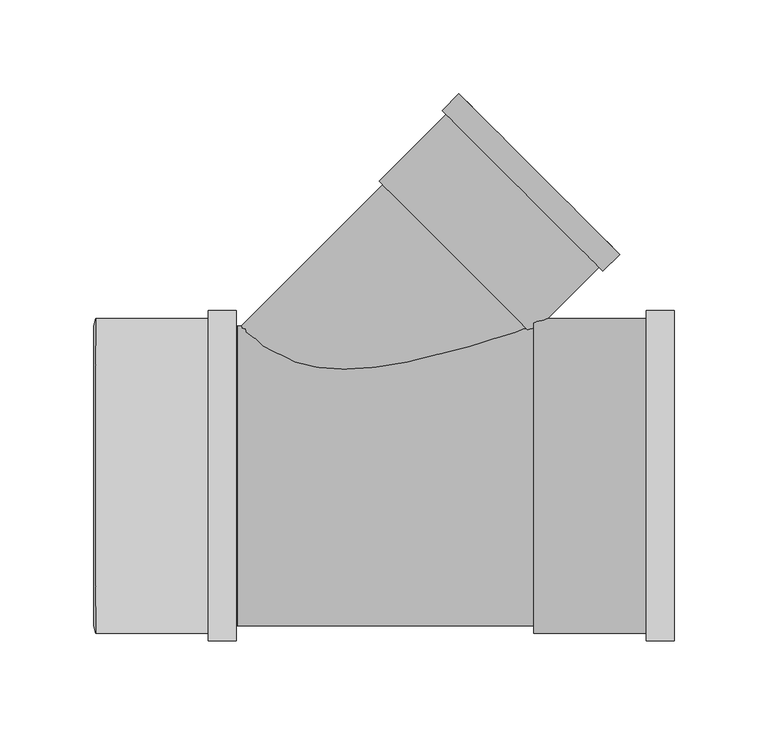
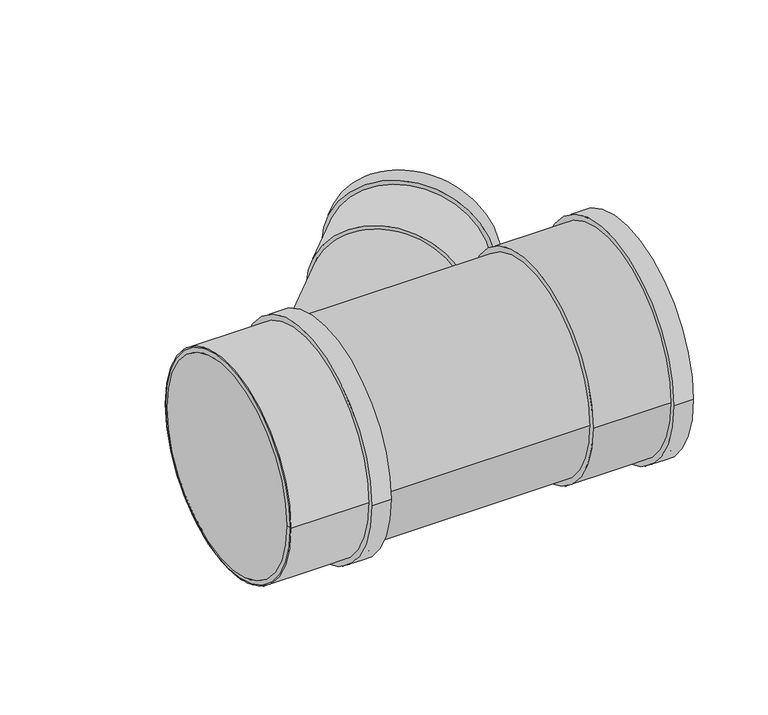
"""IFC4 building model written with IfcOpenShell, lengths in millimetres: pipe fitting geometry, Superdrain HTEA Branch : Superdrain HTEA Branch."""

from ifc_helpers import new_model, si_unit, point, frame, origin, origin_2d, place, context, project, spatial, polyline, circle_curve, trimmed, segment, composite_curve, outline, extrude, source, transform, mapped, element, save
from ifc_brep_helpers import plane_surface, cylinder_surface, revolved_surface, advanced_brep


def pipe_fitting_f813f56d(model_context):
    return source(origin(), model_context, "Body", "SolidModel", [
        extrude(outline(composite_curve([segment(trimmed(circle_curve(origin_2d(), 84.0), [point((84.0, 0.0))], [point((-84.0, 0.0))], False, "CARTESIAN"), True, "CONTINUOUS"), segment(trimmed(circle_curve(origin_2d(), 84.0), [point((-84.0, 0.0))], [point((84.0, 0.0))], False, "CARTESIAN"), True, "CONTINUOUS")], self_intersect=False), holes=[composite_curve([segment(trimmed(circle_curve(origin_2d(), 80.0), [point((80.0, 0.0))], [point((-80.0, 0.0))], True, "CARTESIAN"), True, "CONTINUOUS"), segment(trimmed(circle_curve(origin_2d(), 80.0), [point((-80.0, 0.0))], [point((80.0, 0.0))], True, "CARTESIAN"), True, "CONTINUOUS")], self_intersect=False)]), frame((-75.6, 0.0, 0.0), z_axis=(1.0, 0.0, 0.0), x_axis=(0.0, 1.0, 0.0)), (0.0, 0.0, 1.0), 75.0),
        extrude(outline(composite_curve([segment(trimmed(circle_curve(origin_2d(), 88.2), [point((88.2, 0.0))], [point((-88.2, 0.0))], False, "CARTESIAN"), True, "CONTINUOUS"), segment(trimmed(circle_curve(origin_2d(), 88.2), [point((-88.2, 0.0))], [point((88.2, 0.0))], False, "CARTESIAN"), True, "CONTINUOUS")], self_intersect=False), holes=[composite_curve([segment(trimmed(circle_curve(origin_2d(), 80.0), [point((80.0, 0.0))], [point((-80.0, 0.0))], True, "CARTESIAN"), True, "CONTINUOUS"), segment(trimmed(circle_curve(origin_2d(), 80.0), [point((-80.0, 0.0))], [point((80.0, 0.0))], True, "CARTESIAN"), True, "CONTINUOUS")], self_intersect=False)]), frame((-15.6, 0.0, 0.0), z_axis=(1.0, 0.0, 0.0), x_axis=(0.0, 1.0, 0.0)), (0.0, 0.0, 1.0), 15.0),
        advanced_brep(
        [(-76.6, 80.0, 0.0), (-76.6, -80.0, 0.0), (-75.6, 84.0, 0.0), (-75.6, -84.0, 0.0)],
        [
            (0, 1, circle_curve(frame((-76.6, 0.0, 0.0), z_axis=(-1.0, 0.0, 0.0), x_axis=(0.0, 1.0000000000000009, 0.0)), 80.0)),
            (1, 0, circle_curve(frame((-76.6, 0.0, 0.0), z_axis=(-1.0, 0.0, 0.0), x_axis=(0.0, -1.0000000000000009, 0.0)), 80.0)),
            (2, 3, circle_curve(frame((-75.6, 0.0, 0.0), z_axis=(1.0, 0.0, 0.0), x_axis=(0.0, -1.0000000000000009, 0.0)), 84.0)),
            (3, 2, circle_curve(frame((-75.6, 0.0, 0.0), z_axis=(1.0, 0.0, 0.0), x_axis=(0.0, 1.0000000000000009, 0.0)), 84.0)),
            (3, 1),
            (0, 2),
        ],
        [
            plane_surface(frame((-76.6, 0.0, 0.0), z_axis=(-1.0, 0.0, 0.0), x_axis=(0.0, 0.0, -1.0))),
            plane_surface(frame((-75.6, 0.0, 0.0), z_axis=(1.0, 0.0, 0.0), x_axis=(0.0, 0.0, -1.0))),
            revolved_surface(polyline([(-76.6, 79.99999999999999, 0.0), (-75.6, 84.0, 0.0)]), (-96.6, 0.0, 0.0), (1.0000000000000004, 0.0, 0.0)),
            revolved_surface(polyline([(-76.6, -79.99999999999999, 0.0), (-75.6, -84.0, 0.0)]), (-96.6, 0.0, 0.0), (1.0000000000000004, 0.0, 0.0)),
        ],
        [
            (0, [[1, 2]]),
            (1, [[3, 4]]),
            (2, [[-4, 5, -1, 6]]),
            (3, [[-3, -6, -2, -5]]),
        ],
    ),
        advanced_brep(
        [(157.9, -84.0, 0.0), (157.9, 84.0, 0.0), (232.9, -84.0, 0.0), (232.9, 84.0, 0.0), (232.9, -80.0, 0.0), (232.9, 80.0, 0.0), (158.9, -80.0, 0.0), (158.9, 80.0, 0.0)],
        [
            (0, 1, circle_curve(frame((157.9, 0.0, 0.0), z_axis=(-1.0, 0.0, 0.0), x_axis=(0.0, 1.0, 0.0)), 84.0)),
            (1, 0, circle_curve(frame((157.9, 0.0, 0.0), z_axis=(-1.0, 0.0, 0.0), x_axis=(0.0, 1.0, 0.0)), 84.0)),
            (2, 3, circle_curve(frame((232.9, 0.0, 0.0), z_axis=(1.0, 0.0, 0.0), x_axis=(0.0, 1.0, 0.0)), 84.0)),
            (3, 2, circle_curve(frame((232.9, 0.0, 0.0), z_axis=(1.0, 0.0, 0.0), x_axis=(0.0, 1.0, 0.0)), 84.0)),
            (4, 5, circle_curve(frame((232.9, 0.0, 0.0), z_axis=(-1.0, 0.0, 0.0), x_axis=(0.0, 1.0, 0.0)), 80.0)),
            (5, 4, circle_curve(frame((232.9, 0.0, 0.0), z_axis=(-1.0, 0.0, 0.0), x_axis=(0.0, 1.0, 0.0)), 80.0)),
            (0, 2),
            (3, 1),
            (6, 7, circle_curve(frame((158.9, 0.0, 0.0), z_axis=(-1.0, 0.0, 0.0), x_axis=(0.0, 1.0, 0.0)), 80.0)),
            (7, 5),
            (4, 6),
            (7, 6, circle_curve(frame((158.9, 0.0, 0.0), z_axis=(-1.0, 0.0, 0.0), x_axis=(0.0, 1.0, 0.0)), 80.0)),
        ],
        [
            plane_surface(frame((157.9, 0.0, 0.0), z_axis=(-1.0, 0.0, 0.0), x_axis=(0.0, 0.0, 1.0))),
            plane_surface(frame((232.9, 0.0, 0.0), z_axis=(1.0, 0.0, 0.0), x_axis=(0.0, 0.0, 1.0))),
            cylinder_surface(frame((157.9, 0.0, 0.0), z_axis=(-1.0, 0.0, 0.0), x_axis=(0.0, 1.0, 0.0)), 84.0),
            revolved_surface(polyline([(158.9, 80.0, 0.0), (232.9, 80.0, 0.0)]), (158.9, 0.0, 0.0), (-1.0, 0.0, 0.0)),
            plane_surface(frame((158.9, 0.0, 0.0), z_axis=(1.0, 0.0, 0.0), x_axis=(0.0, 0.0, 1.0))),
        ],
        [
            (0, [[1, 2]]),
            (1, [[3, 4], [5, 6]]),
            (2, [[-1, 7, -4, 8]]),
            (2, [[-2, -8, -3, -7]]),
            (3, [[9, 10, -5, 11]]),
            (3, [[12, -11, -6, -10]]),
            (4, [[-12, -9]]),
        ],
    ),
        extrude(outline(composite_curve([segment(trimmed(circle_curve(origin_2d(), 88.2), [point((88.2, 0.0))], [point((-88.2, 0.0))], False, "CARTESIAN"), True, "CONTINUOUS"), segment(trimmed(circle_curve(origin_2d(), 88.2), [point((-88.2, 0.0))], [point((88.2, 0.0))], False, "CARTESIAN"), True, "CONTINUOUS")], self_intersect=False), holes=[composite_curve([segment(trimmed(circle_curve(origin_2d(), 80.0), [point((80.0, 0.0))], [point((-80.0, 0.0))], True, "CARTESIAN"), True, "CONTINUOUS"), segment(trimmed(circle_curve(origin_2d(), 80.0), [point((-80.0, 0.0))], [point((80.0, 0.0))], True, "CARTESIAN"), True, "CONTINUOUS")], self_intersect=False)]), frame((217.9, 0.0, 0.0), z_axis=(1.0, 0.0, 0.0), x_axis=(0.0, 1.0, 0.0)), (0.0, 0.0, 1.0), 15.0),
        extrude(outline(composite_curve([segment(trimmed(circle_curve(origin_2d(), 55.0), [point((0.0, 55.0))], [point((0.0, -55.0))], False, "CARTESIAN"), True, "CONTINUOUS"), segment(trimmed(circle_curve(origin_2d(), 55.0), [point((0.0, -55.0))], [point((0.0, 55.0))], False, "CARTESIAN"), True, "CONTINUOUS")], self_intersect=False)), frame((0.0, 0.0, 0.0), z_axis=(0.707106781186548, 0.7071067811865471, 0.0), x_axis=(0.0, 0.0, 1.0)), (0.0, 0.0, 1.0), 164.6),
        extrude(outline(composite_curve([segment(trimmed(circle_curve(origin_2d(), 80.0), [point((80.0, 0.0))], [point((-80.0, 0.0))], False, "CARTESIAN"), True, "CONTINUOUS"), segment(trimmed(circle_curve(origin_2d(), 80.0), [point((-80.0, 0.0))], [point((80.0, 0.0))], False, "CARTESIAN"), True, "CONTINUOUS")], self_intersect=False)), frame((-75.6, 0.0, 0.0), z_axis=(1.0, 0.0, 0.0), x_axis=(0.0, 1.0, 0.0)), (0.0, 0.0, 1.0), 75.6),
        extrude(outline(composite_curve([segment(trimmed(circle_curve(origin_2d(), 80.0), [point((-80.0, 0.0))], [point((80.0, 0.0))], False, "CARTESIAN"), True, "CONTINUOUS"), segment(trimmed(circle_curve(origin_2d(), 80.0), [point((80.0, 0.0))], [point((-80.0, 0.0))], False, "CARTESIAN"), True, "CONTINUOUS")], self_intersect=False)), frame((0.0, 0.0, 0.0), z_axis=(1.0, 0.0, 0.0), x_axis=(0.0, 1.0, 0.0)), (0.0, 0.0, 1.0), 157.9),
        extrude(outline(composite_curve([segment(trimmed(circle_curve(origin_2d(), 60.6375), [point((0.0, 60.6375))], [point((0.0, -60.6375))], False, "CARTESIAN"), True, "CONTINUOUS"), segment(trimmed(circle_curve(origin_2d(), 60.6375), [point((0.0, -60.6375))], [point((0.0, 60.6375))], False, "CARTESIAN"), True, "CONTINUOUS")], self_intersect=False), holes=[composite_curve([segment(trimmed(circle_curve(origin_2d(), 55.0), [point((0.0, 55.0))], [point((0.0, -55.0))], True, "CARTESIAN"), True, "CONTINUOUS"), segment(trimmed(circle_curve(origin_2d(), 55.0), [point((0.0, -55.0))], [point((0.0, 55.0))], True, "CARTESIAN"), True, "CONTINUOUS")], self_intersect=False)]), frame((152.027958, 152.027958, 0.0), z_axis=(0.7071067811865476, 0.7071067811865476, 0.0), x_axis=(0.0, 0.0, 1.0)), (0.0, 0.0, 1.0), 12.6),
        extrude(outline(composite_curve([segment(trimmed(circle_curve(origin_2d(), 57.75), [point((0.0, 57.75))], [point((0.0, -57.75))], False, "CARTESIAN"), True, "CONTINUOUS"), segment(trimmed(circle_curve(origin_2d(), 57.75), [point((0.0, -57.75))], [point((0.0, 57.75))], False, "CARTESIAN"), True, "CONTINUOUS")], self_intersect=False), holes=[composite_curve([segment(trimmed(circle_curve(origin_2d(), 55.0), [point((0.0, 55.0))], [point((0.0, -55.0))], True, "CARTESIAN"), True, "CONTINUOUS"), segment(trimmed(circle_curve(origin_2d(), 55.0), [point((0.0, -55.0))], [point((0.0, 55.0))], True, "CARTESIAN"), True, "CONTINUOUS")], self_intersect=False)]), frame((116.3897762, 116.3897762, 0.0), z_axis=(0.7071067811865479, 0.7071067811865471, 0.0), x_axis=(0.0, 0.0, 1.0)), (0.0, 0.0, 1.0), 63.0),
    ])


if __name__ == "__main__":
    model = new_model("IFC4")
    model_context = context("Model", 3, world=origin())
    ifc_project = project(units=[si_unit("LENGTHUNIT", "METRE", prefix="MILLI")], contexts=[model_context])
    site = spatial("IfcSite", under=ifc_project)
    building = spatial("IfcBuilding", under=site)
    placement = place(None, origin())
    pipe_fitting_shape = pipe_fitting_f813f56d(model_context)
    element("IfcPipeFitting", 1, ObjectType="Superdrain HTEA Branch : Superdrain HTEA Branch", at=placement, inside=building, context=model_context, shape_type="MappedRepresentation", body=[
        mapped(pipe_fitting_shape, transform((0.0, 0.0, 0.0), x_axis=(1.0, 0.0, 0.0), y_axis=(0.0, 1.0, 0.0), z_axis=(0.0, 0.0, 1.0))),
    ])
    save(model, "model.ifc")
